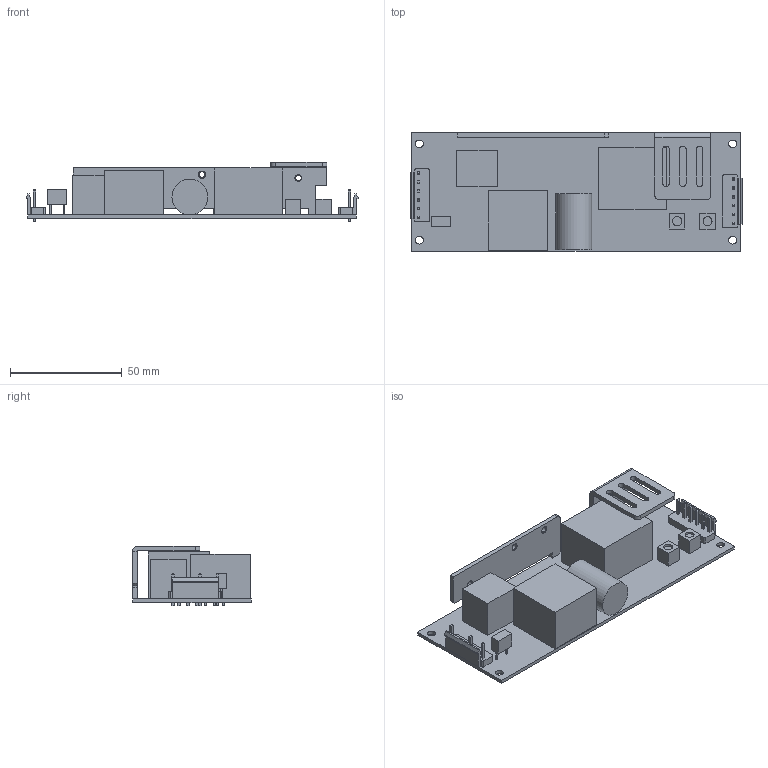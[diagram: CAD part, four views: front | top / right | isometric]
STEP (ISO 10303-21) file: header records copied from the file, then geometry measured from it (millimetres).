
FILE_DESCRIPTION((''),'2;1');
FILE_NAME('C:\Users\shirley\Desktop\HLP-60H.stp','2020-05-25T15:52:42',('shirley'),(''),'Autodesk Inventor 2010','Autodesk Inventor 2010','');
FILE_SCHEMA(('AUTOMOTIVE_DESIGN { 1 0 10303 214 1 1 1 1 }'));
Length unit declared in the file: millimetre
Products named in the file (12): HLP-60H; PCB; JS-1120-06; JS-1120-06,2,4,5; HS2; HS1; VR; C5; T1; FUSE; T2; T3
Assembly tree (12 placements, depth 2):
  HLP-60H
    PCB
    JS-1120-06
    JS-1120-06,2,4,5
    HS2
    HS1
    VR  x2
    C5
    T1
    FUSE
    T2
    T3
Bounding box: 148.38 x 53 x 26.5 mm (x, y, z)
Volume: 60739.9 mm3; surface area: 35619.1 mm2
Topology: 12 solids, 12 shells, 277 faces, 1028 edges, 1128 vertices
Faces by surface type: plane 225, cylinder 48, bspline 4
Full cylindrical faces by diameter (mm): 2.6 x4, 3.5 x4, 4 x2, 16 x1
Entity records: 11718 total; most frequent: CARTESIAN_POINT 2155, DIRECTION 1707, ORIENTED_EDGE 1312, VECTOR 869, LINE 869, EDGE_CURVE 656, VERTEX_POINT 444, AXIS2_PLACEMENT_3D 419
